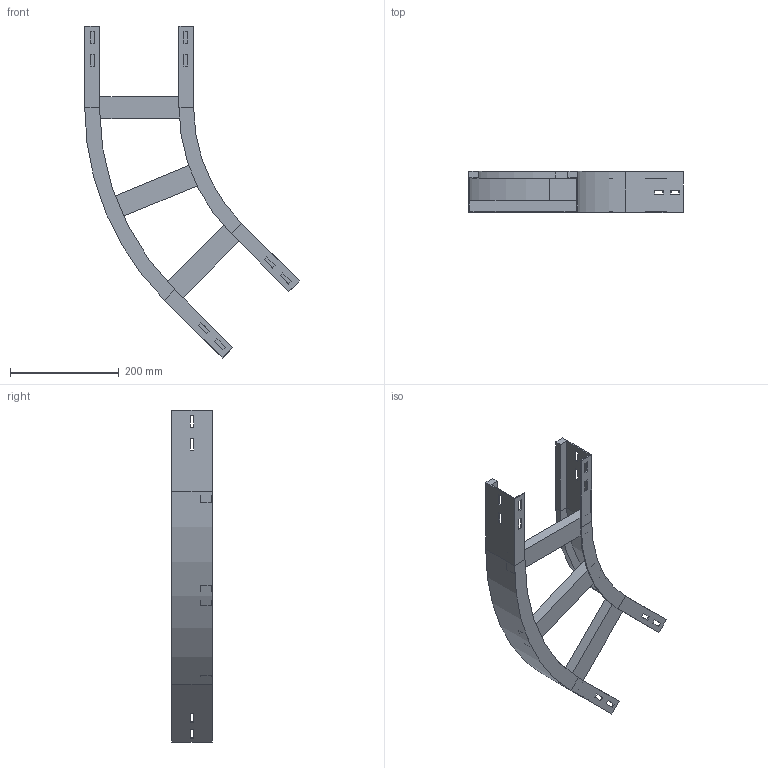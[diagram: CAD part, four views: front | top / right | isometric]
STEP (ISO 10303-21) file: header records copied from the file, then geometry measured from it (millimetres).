
FILE_DESCRIPTION (( 'STEP AP214' ), '1' );
FILE_NAME ('A2_11B3C200.step', '2025-02-21T15:15:54', ( '' ), ( '' ), 'SwSTEP 2.0', 'SolidWorks 2023', '' );
FILE_SCHEMA (( 'AUTOMOTIVE_DESIGN' ));
Length unit declared in the file: millimetre
Products named in the file (4): TRAVERSINO_200; A2_LONGH.INTERNO 45°_H75_R300; A2_11B3C200; A2_LONGH.ESTERNO 45°_H75_R300+200
Assembly tree (5 placements, depth 2):
  A2_11B3C200
    A2_LONGH.INTERNO 45°_H75_R300
    A2_LONGH.ESTERNO 45°_H75_R300+200
    TRAVERSINO_200  x3
Bounding box: 393.93 x 75 x 609.62 mm (x, y, z)
Volume: 952852.9 mm3; surface area: 364387.2 mm2
Topology: 5 solids, 5 shells, 134 faces, 340 edges, 216 vertices
Faces by surface type: plane 126, cylinder 8
Entity records: 3821 total; most frequent: CARTESIAN_POINT 646, ORIENTED_EDGE 632, DIRECTION 592, EDGE_CURVE 316, VECTOR 300, LINE 300, VERTEX_POINT 200, EDGE_LOOP 154
